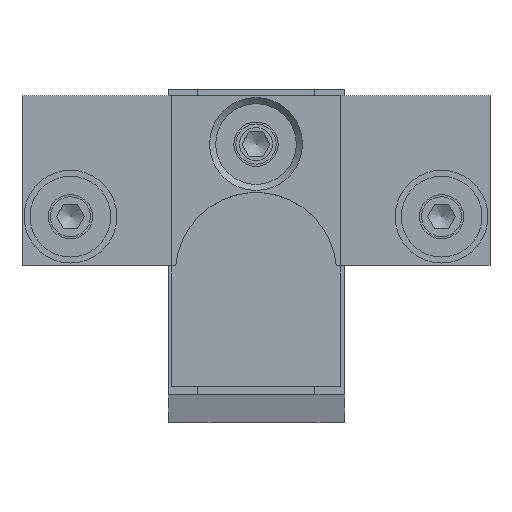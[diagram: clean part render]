
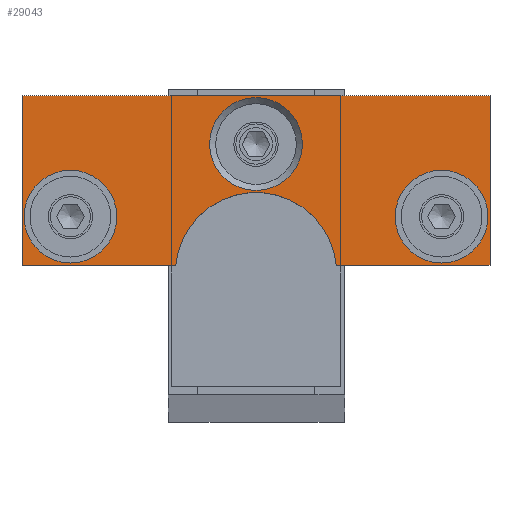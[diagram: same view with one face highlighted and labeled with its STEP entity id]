
A CAD part, top view. The second image highlights one B-rep face of the part: STEP entity #29043.
In plain terms, the highlighted planar face has unit normal (0, 0, 1).
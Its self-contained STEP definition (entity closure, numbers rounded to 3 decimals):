
#387=FACE_BOUND('',#3803,.T.);
#388=FACE_BOUND('',#3804,.T.);
#389=FACE_BOUND('',#3805,.T.);
#805=PLANE('',#31379);
#2100=FACE_OUTER_BOUND('',#3802,.T.);
#3802=EDGE_LOOP('',(#20058,#20059,#20060,#20061,#20062,#20063));
#3803=EDGE_LOOP('',(#20064));
#3804=EDGE_LOOP('',(#20065));
#3805=EDGE_LOOP('',(#20066));
#6003=LINE('',#49813,#7045);
#6004=LINE('',#49815,#7046);
#6005=LINE('',#49817,#7047);
#6006=LINE('',#49821,#7048);
#6007=LINE('',#49822,#7049);
#7045=VECTOR('',#36962,10.);
#7046=VECTOR('',#36963,10.);
#7047=VECTOR('',#36964,10.);
#7048=VECTOR('',#36967,10.);
#7049=VECTOR('',#36968,10.);
#8372=CIRCLE('',#31377,5.75);
#8374=CIRCLE('',#31380,10.);
#8375=CIRCLE('',#31381,5.75);
#8376=CIRCLE('',#31382,5.75);
#11335=VERTEX_POINT('',#49805);
#11337=VERTEX_POINT('',#49811);
#11338=VERTEX_POINT('',#49812);
#11339=VERTEX_POINT('',#49814);
#11340=VERTEX_POINT('',#49816);
#11341=VERTEX_POINT('',#49818);
#11342=VERTEX_POINT('',#49820);
#11343=VERTEX_POINT('',#49823);
#11344=VERTEX_POINT('',#49825);
#14804=EDGE_CURVE('',#11335,#11335,#8372,.T.);
#14807=EDGE_CURVE('',#11337,#11338,#6003,.T.);
#14808=EDGE_CURVE('',#11338,#11339,#6004,.T.);
#14809=EDGE_CURVE('',#11339,#11340,#6005,.T.);
#14810=EDGE_CURVE('',#11340,#11341,#8374,.T.);
#14811=EDGE_CURVE('',#11341,#11342,#6006,.T.);
#14812=EDGE_CURVE('',#11342,#11337,#6007,.T.);
#14813=EDGE_CURVE('',#11343,#11343,#8375,.T.);
#14814=EDGE_CURVE('',#11344,#11344,#8376,.T.);
#20058=ORIENTED_EDGE('',*,*,#14807,.T.);
#20059=ORIENTED_EDGE('',*,*,#14808,.T.);
#20060=ORIENTED_EDGE('',*,*,#14809,.T.);
#20061=ORIENTED_EDGE('',*,*,#14810,.T.);
#20062=ORIENTED_EDGE('',*,*,#14811,.T.);
#20063=ORIENTED_EDGE('',*,*,#14812,.T.);
#20064=ORIENTED_EDGE('',*,*,#14813,.F.);
#20065=ORIENTED_EDGE('',*,*,#14814,.F.);
#20066=ORIENTED_EDGE('',*,*,#14804,.F.);
#29043=ADVANCED_FACE('',(#2100,#387,#388,#389),#805,.T.);
#31377=AXIS2_PLACEMENT_3D('',#49806,#36955,#36956);
#31379=AXIS2_PLACEMENT_3D('',#49810,#36960,#36961);
#31380=AXIS2_PLACEMENT_3D('',#49819,#36965,#36966);
#31381=AXIS2_PLACEMENT_3D('',#49824,#36969,#36970);
#31382=AXIS2_PLACEMENT_3D('',#49826,#36971,#36972);
#36955=DIRECTION('center_axis',(0.,0.,
1.));
#36956=DIRECTION('ref_axis',(-1.,0.,0.));
#36960=DIRECTION('center_axis',(0.,0.,
1.));
#36961=DIRECTION('ref_axis',(1.,0.,0.));
#36962=DIRECTION('',(-1.,0.,0.));
#36963=DIRECTION('',(0.,-1.,0.));
#36964=DIRECTION('',(1.,0.,0.));
#36965=DIRECTION('center_axis',(0.,0.,
-1.));
#36966=DIRECTION('ref_axis',(0.995,0.1,0.));
#36967=DIRECTION('',(1.,0.,0.));
#36968=DIRECTION('',(0.,1.,0.));
#36969=DIRECTION('center_axis',(0.,0.,
1.));
#36970=DIRECTION('ref_axis',(-1.,0.,0.));
#36971=DIRECTION('center_axis',(0.,0.,
1.));
#36972=DIRECTION('ref_axis',(-1.,0.,0.));
#49805=CARTESIAN_POINT('',(39.65,22.,536.));
#49806=CARTESIAN_POINT('Origin',(33.9,22.,536.));
#49810=CARTESIAN_POINT('Origin',(10.9,27.153,536.));
#49811=CARTESIAN_POINT('',(39.9,37.,536.));
#49812=CARTESIAN_POINT('',(-18.1,37.,536.));
#49813=CARTESIAN_POINT('',(-18.1,37.,536.));
#49814=CARTESIAN_POINT('',(-18.1,16.,536.));
#49815=CARTESIAN_POINT('',(-18.1,16.,536.));
#49816=CARTESIAN_POINT('',(0.95,16.,536.));
#49817=CARTESIAN_POINT('',(0.95,16.,536.));
#49818=CARTESIAN_POINT('',(20.85,16.,536.));
#49819=CARTESIAN_POINT('Origin',(10.9,15.,536.));
#49820=CARTESIAN_POINT('',(39.9,16.,536.));
#49821=CARTESIAN_POINT('',(39.9,16.,536.));
#49822=CARTESIAN_POINT('',(39.9,37.,536.));
#49823=CARTESIAN_POINT('',(16.65,31.,536.));
#49824=CARTESIAN_POINT('Origin',(10.9,31.,536.));
#49825=CARTESIAN_POINT('',(-6.35,22.,536.));
#49826=CARTESIAN_POINT('Origin',(-12.1,22.,536.));
